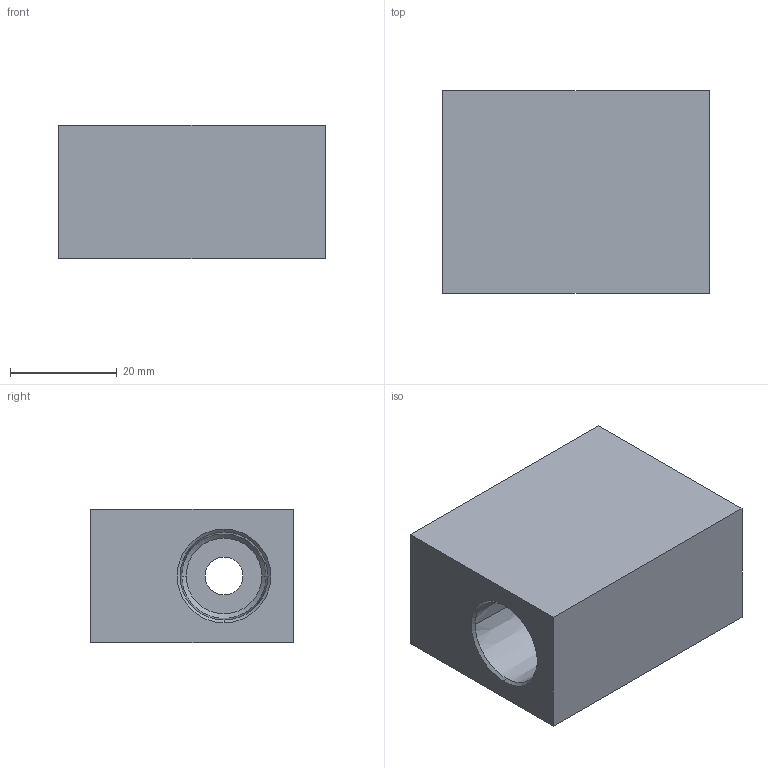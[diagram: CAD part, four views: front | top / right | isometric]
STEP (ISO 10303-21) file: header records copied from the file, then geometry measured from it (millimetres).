
FILE_DESCRIPTION (( 'STEP AP203' ), '1' );
FILE_NAME ('FTPTS06.STEP', '2026-06-26T01:50:13', ( 'USER' ), ( '' ), 'SwSTEP 2.0', 'SolidWorks 2023', '' );
FILE_SCHEMA (( 'CONFIG_CONTROL_DESIGN' ));
Length unit declared in the file: millimetre
Products named in the file (1): FTPTS06
Bounding box: 50 x 38 x 25 mm (x, y, z)
Volume: 37424.2 mm3; surface area: 10741.9 mm2
Topology: 1 solids, 1 shells, 37 faces, 87 edges, 54 vertices
Faces by surface type: cone 18, cylinder 10, plane 9
Entity records: 1152 total; most frequent: DIRECTION 201, CARTESIAN_POINT 191, ORIENTED_EDGE 174, EDGE_CURVE 87, AXIS2_PLACEMENT_3D 80, VERTEX_POINT 54, EDGE_LOOP 43, CIRCLE 42
